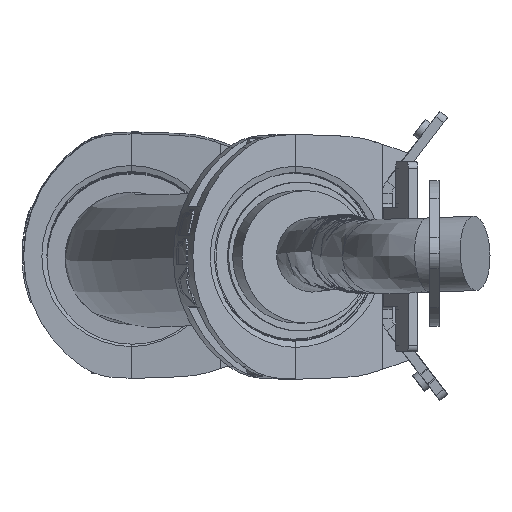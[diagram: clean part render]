
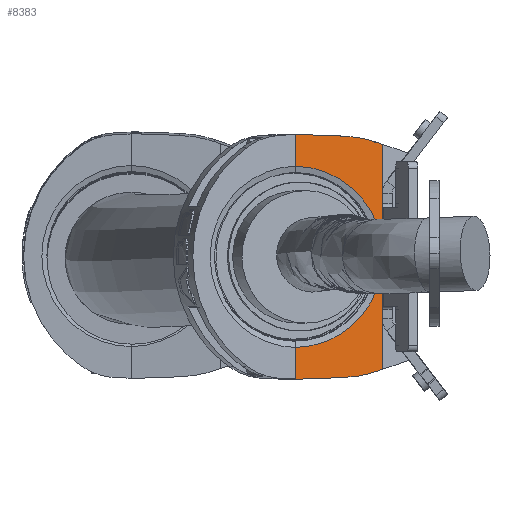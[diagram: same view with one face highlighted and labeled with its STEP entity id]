
A CAD part, left-side view. The second image highlights one B-rep face of the part: STEP entity #8383.
In plain terms, the highlighted planar face has unit normal (-0.974, -0.225, 0).
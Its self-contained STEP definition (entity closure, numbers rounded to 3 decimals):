
#395 = VERTEX_POINT ( 'NONE', #1855 ) ;
#478 = ORIENTED_EDGE ( 'NONE', *, *, #5551, .T. ) ;
#513 = CARTESIAN_POINT ( 'NONE',  ( 2195.656, 140.124, 2011.683 ) ) ;
#636 = CARTESIAN_POINT ( 'NONE',  ( 2187.465, 175.603, 1864.954 ) ) ;
#819 =( BOUNDED_CURVE ( )  B_SPLINE_CURVE ( 3, ( #6992, #513, #8386, #14889 ),
 .UNSPECIFIED., .F., .T. ) 
 B_SPLINE_CURVE_WITH_KNOTS ( ( 4, 4 ),
 ( 1.606, 1.891 ),
 .UNSPECIFIED. ) 
 CURVE ( )  GEOMETRIC_REPRESENTATION_ITEM ( )  RATIONAL_B_SPLINE_CURVE ( ( 1., 0.993, 0.993, 1. ) ) 
 REPRESENTATION_ITEM ( '' )  );
#1113 = ORIENTED_EDGE ( 'NONE', *, *, #6863, .F. ) ;
#1299 = CARTESIAN_POINT ( 'NONE',  ( 2194.048, 147.091, 1865.975 ) ) ;
#1374 = VECTOR ( 'NONE', #12713, 1000. ) ;
#1671 = ORIENTED_EDGE ( 'NONE', *, *, #1797, .T. ) ;
#1710 = ORIENTED_EDGE ( 'NONE', *, *, #17099, .T. ) ;
#1797 = EDGE_CURVE ( 'NONE', #13446, #16802, #16693, .T. ) ;
#1855 = CARTESIAN_POINT ( 'NONE',  ( 2198.768, 126.644, 2008.172 ) ) ;
#1935 = CARTESIAN_POINT ( 'NONE',  ( 2199.62, 122.955, 2006.919 ) ) ;
#2176 = VECTOR ( 'NONE', #12563, 1000. ) ;
#2242 = DIRECTION ( 'NONE',  ( -0.225, 0.974, 0. ) ) ;
#2399 = CARTESIAN_POINT ( 'NONE',  ( 2198.768, 126.644, 1869.736 ) ) ;
#2654 = DIRECTION ( 'NONE',  ( 0.974, 0.225, 0. ) ) ;
#2711 = CIRCLE ( 'NONE', #8226, 54.752 ) ;
#3061 = CARTESIAN_POINT ( 'NONE',  ( 2187.465, 175.603, 2012.954 ) ) ;
#3361 = CARTESIAN_POINT ( 'NONE',  ( 2185.571, 183.808, 1850.308 ) ) ;
#4342 = CARTESIAN_POINT ( 'NONE',  ( 2194.048, 147.091, 1865.975 ) ) ;
#4345 = ORIENTED_EDGE ( 'NONE', *, *, #10301, .T. ) ;
#4521 = CARTESIAN_POINT ( 'NONE',  ( 2186.214, 181.022, 1864.76 ) ) ;
#4553 =( BOUNDED_CURVE ( )  B_SPLINE_CURVE ( 3, ( #4342, #7267, #12574, #16293 ),
 .UNSPECIFIED., .F., .T. ) 
 B_SPLINE_CURVE_WITH_KNOTS ( ( 4, 4 ),
 ( 1.606, 1.891 ),
 .UNSPECIFIED. ) 
 CURVE ( )  GEOMETRIC_REPRESENTATION_ITEM ( )  RATIONAL_B_SPLINE_CURVE ( ( 1., 0.993, 0.993, 1. ) ) 
 REPRESENTATION_ITEM ( '' )  );
#5327 = ORIENTED_EDGE ( 'NONE', *, *, #16405, .F. ) ;
#5551 = EDGE_CURVE ( 'NONE', #6511, #10150, #2711, .T. ) ;
#5591 = DIRECTION ( 'NONE',  ( 0., 0., 1. ) ) ;
#6106 = CARTESIAN_POINT ( 'NONE',  ( 2198.769, 126.64, 2008.171 ) ) ;
#6189 = VERTEX_POINT ( 'NONE', #3061 ) ;
#6511 = VERTEX_POINT ( 'NONE', #11969 ) ;
#6760 = EDGE_CURVE ( 'NONE', #6511, #6189, #9699, .T. ) ;
#6863 = EDGE_CURVE ( 'NONE', #395, #14100, #8716, .T. ) ;
#6992 = CARTESIAN_POINT ( 'NONE',  ( 2194.048, 147.091, 2011.933 ) ) ;
#7267 = CARTESIAN_POINT ( 'NONE',  ( 2195.656, 140.124, 1866.225 ) ) ;
#7319 = DIRECTION ( 'NONE',  ( 0.214, -0.925, 0.314 ) ) ;
#8184 = DIRECTION ( 'NONE',  ( -0.225, 0.974, 0. ) ) ;
#8226 = AXIS2_PLACEMENT_3D ( 'NONE', #14508, #2654, #8184 ) ;
#8264 = VERTEX_POINT ( 'NONE', #8728 ) ;
#8383 = ADVANCED_FACE ( 'NONE', ( #11425 ), #15491, .F. ) ;
#8386 = CARTESIAN_POINT ( 'NONE',  ( 2197.24, 133.261, 2010.421 ) ) ;
#8716 = LINE ( 'NONE', #6106, #1374 ) ;
#8728 = CARTESIAN_POINT ( 'NONE',  ( 2187.465, 175.603, 1864.954 ) ) ;
#8851 = DIRECTION ( 'NONE',  ( 0., 0., 1. ) ) ;
#8896 = CARTESIAN_POINT ( 'NONE',  ( 2186.417, 180.144, 1838.954 ) ) ;
#8910 = DIRECTION ( 'NONE',  ( 0.225, -0.974, -0.035 ) ) ;
#9344 = VERTEX_POINT ( 'NONE', #12208 ) ;
#9506 = CARTESIAN_POINT ( 'NONE',  ( 2199.62, 122.955, 1838.954 ) ) ;
#9699 = LINE ( 'NONE', #13672, #2176 ) ;
#10150 = VERTEX_POINT ( 'NONE', #13182 ) ;
#10213 = LINE ( 'NONE', #15855, #11815 ) ;
#10252 = ORIENTED_EDGE ( 'NONE', *, *, #6760, .F. ) ;
#10283 = VECTOR ( 'NONE', #15268, 1000. ) ;
#10301 = EDGE_CURVE ( 'NONE', #12706, #13446, #4553, .T. ) ;
#11194 = LINE ( 'NONE', #4521, #10283 ) ;
#11342 = VECTOR ( 'NONE', #5591, 1000. ) ;
#11425 = FACE_OUTER_BOUND ( 'NONE', #11560, .T. ) ;
#11560 = EDGE_LOOP ( 'NONE', ( #1710, #1113, #5327, #15753, #10252, #478, #15684, #12122, #4345, #1671 ) ) ;
#11815 = VECTOR ( 'NONE', #8910, 1000. ) ;
#11969 = CARTESIAN_POINT ( 'NONE',  ( 2187.465, 175.603, 1993.702 ) ) ;
#12041 = VECTOR ( 'NONE', #7319, 1000. ) ;
#12122 = ORIENTED_EDGE ( 'NONE', *, *, #14024, .T. ) ;
#12208 = CARTESIAN_POINT ( 'NONE',  ( 2194.048, 147.091, 2011.933 ) ) ;
#12547 = AXIS2_PLACEMENT_3D ( 'NONE', #8896, #14101, #2242 ) ;
#12563 = DIRECTION ( 'NONE',  ( 0., 0., 1. ) ) ;
#12574 = CARTESIAN_POINT ( 'NONE',  ( 2197.24, 133.261, 1867.487 ) ) ;
#12706 = VERTEX_POINT ( 'NONE', #1299 ) ;
#12713 = DIRECTION ( 'NONE',  ( 0.214, -0.925, -0.314 ) ) ;
#13132 = CARTESIAN_POINT ( 'NONE',  ( 2199.62, 122.955, 1870.99 ) ) ;
#13182 = CARTESIAN_POINT ( 'NONE',  ( 2187.465, 175.603, 1884.207 ) ) ;
#13446 = VERTEX_POINT ( 'NONE', #2399 ) ;
#13672 = CARTESIAN_POINT ( 'NONE',  ( 2187.465, 175.603, 1864.954 ) ) ;
#14024 = EDGE_CURVE ( 'NONE', #8264, #12706, #11194, .T. ) ;
#14100 = VERTEX_POINT ( 'NONE', #1935 ) ;
#14101 = DIRECTION ( 'NONE',  ( 0.974, 0.225, 0. ) ) ;
#14508 = CARTESIAN_POINT ( 'NONE',  ( 2187.303, 176.304, 1938.954 ) ) ;
#14889 = CARTESIAN_POINT ( 'NONE',  ( 2198.768, 126.644, 2008.172 ) ) ;
#15268 = DIRECTION ( 'NONE',  ( 0.225, -0.974, 0.035 ) ) ;
#15404 = EDGE_CURVE ( 'NONE', #8264, #10150, #16818, .T. ) ;
#15491 = PLANE ( 'NONE',  #12547 ) ;
#15684 = ORIENTED_EDGE ( 'NONE', *, *, #15404, .F. ) ;
#15753 = ORIENTED_EDGE ( 'NONE', *, *, #15994, .F. ) ;
#15855 = CARTESIAN_POINT ( 'NONE',  ( 2187.48, 175.539, 2012.952 ) ) ;
#15994 = EDGE_CURVE ( 'NONE', #6189, #9344, #10213, .T. ) ;
#16069 = VECTOR ( 'NONE', #8851, 1000. ) ;
#16097 = LINE ( 'NONE', #9506, #11342 ) ;
#16293 = CARTESIAN_POINT ( 'NONE',  ( 2198.768, 126.644, 1869.736 ) ) ;
#16405 = EDGE_CURVE ( 'NONE', #9344, #395, #819, .T. ) ;
#16693 = LINE ( 'NONE', #3361, #12041 ) ;
#16802 = VERTEX_POINT ( 'NONE', #13132 ) ;
#16818 = LINE ( 'NONE', #636, #16069 ) ;
#17099 = EDGE_CURVE ( 'NONE', #16802, #14100, #16097, .T. ) ;
